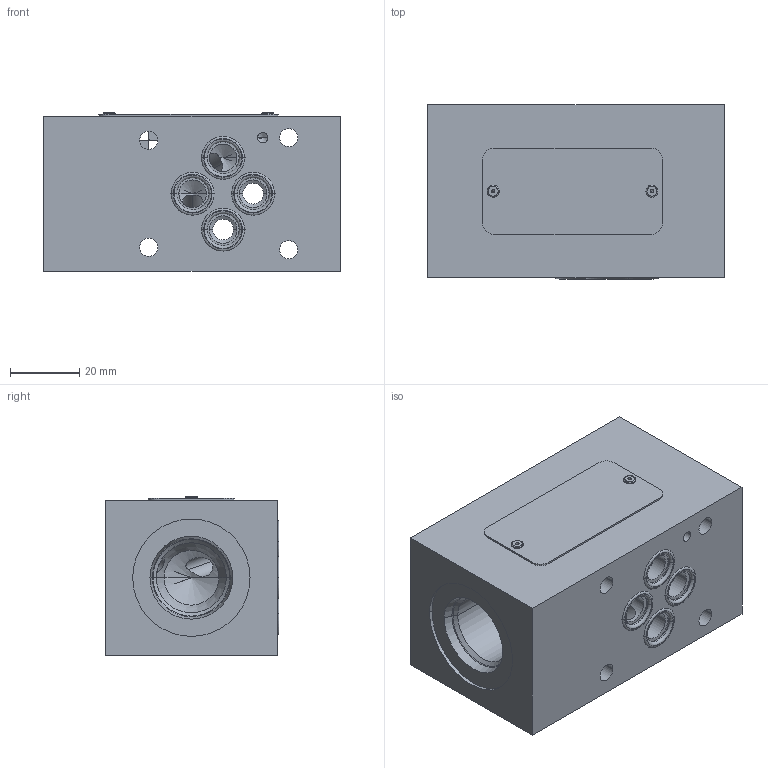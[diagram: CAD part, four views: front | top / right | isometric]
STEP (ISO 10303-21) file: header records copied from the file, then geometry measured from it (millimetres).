
FILE_DESCRIPTION((''),'2;1');
FILE_NAME('1000078479_ASM','2023-10-12T',('l.soukupova'),(''),'PRO/ENGINEER BY PARAMETRIC TECHNOLOGY CORPORATION, 2015440','PRO/ENGINEER BY PARAMETRIC TECHNOLOGY CORPORATION, 2015440','');
FILE_SCHEMA(('AUTOMOTIVE_DESIGN { 1 0 10303 214 1 1 1 1 }'));
Length unit declared in the file: millimetre
Products named in the file (5): 30052702; RD_LABEL_25X52_159703; AF_1932_16485; ORAR00012_201524; 1000078479_ASM
Assembly tree (8 placements, depth 2):
  1000078479_ASM
    30052702
    RD_LABEL_25X52_159703
    AF_1932_16485  x2
    ORAR00012_201524  x4
Bounding box: 86 x 50.38 x 46 mm (x, y, z)
Volume: 170969.7 mm3; surface area: 35009 mm2
Topology: 8 solids, 11 shells, 193 faces, 586 edges, 481 vertices
Faces by surface type: cylinder 92, torus 36, plane 34, cone 31
Entity records: 8612 total; most frequent: CARTESIAN_POINT 1719, DIRECTION 976, ORIENTED_EDGE 652, PRESENTATION_STYLE_ASSIGNMENT 582, STYLED_ITEM 509, CURVE_STYLE 503, AXIS2_PLACEMENT_3D 374, EDGE_CURVE 332
